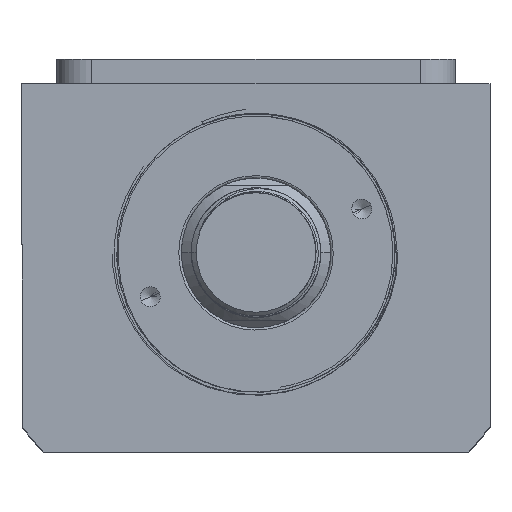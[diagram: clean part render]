
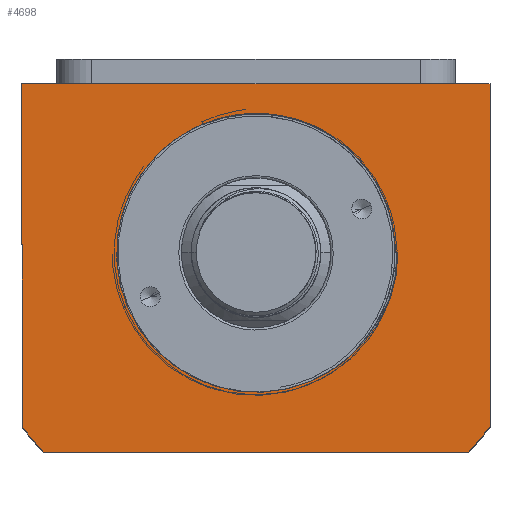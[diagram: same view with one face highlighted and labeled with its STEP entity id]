
A CAD part, top view. The second image highlights one B-rep face of the part: STEP entity #4698.
In plain terms, the highlighted planar face has unit normal (0, 0, 1).
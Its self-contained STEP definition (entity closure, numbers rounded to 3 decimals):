
#69 = CARTESIAN_POINT ( 'NONE',  ( 10.89, -25.816, 52.5 ) ) ;
#324 = CARTESIAN_POINT ( 'NONE',  ( 27.555, -6.99, 52.5 ) ) ;
#429 = FACE_OUTER_BOUND ( 'NONE', #1045, .T. ) ;
#486 = ORIENTED_EDGE ( 'NONE', *, *, #14202, .F. ) ;
#519 = EDGE_CURVE ( 'NONE', #7049, #18448, #19385, .T. ) ;
#596 = CARTESIAN_POINT ( 'NONE',  ( 0., 0., 52.5 ) ) ;
#609 = VERTEX_POINT ( 'NONE', #15562 ) ;
#827 = VECTOR ( 'NONE', #5496, 1000. ) ;
#1045 = EDGE_LOOP ( 'NONE', ( #19054, #5654, #10615, #5291, #7535, #15246 ) ) ;
#1714 = CARTESIAN_POINT ( 'NONE',  ( 20.224, -19.631, 52.5 ) ) ;
#1778 = CARTESIAN_POINT ( 'NONE',  ( 24.898, -13.504, 52.5 ) ) ;
#1793 = ORIENTED_EDGE ( 'NONE', *, *, #11417, .T. ) ;
#1842 = CARTESIAN_POINT ( 'NONE',  ( 22.571, -17.007, 52.5 ) ) ;
#2073 = VERTEX_POINT ( 'NONE', #8135 ) ;
#3306 = CARTESIAN_POINT ( 'NONE',  ( 0., 0., 52.5 ) ) ;
#3344 = CARTESIAN_POINT ( 'NONE',  ( 27.887, -5.628, 52.5 ) ) ;
#3583 = LINE ( 'NONE', #17323, #6401 ) ;
#3900 = CIRCLE ( 'NONE', #14886, 28. ) ;
#4044 = CARTESIAN_POINT ( 'NONE',  ( 42.688, -40., 52.5 ) ) ;
#4205 = CARTESIAN_POINT ( 'NONE',  ( 0., 0., 52.5 ) ) ;
#4561 = CARTESIAN_POINT ( 'NONE',  ( 21.684, -18.094, 52.5 ) ) ;
#4631 = CARTESIAN_POINT ( 'NONE',  ( 10.232, -26.064, 52.5 ) ) ;
#4687 = VERTEX_POINT ( 'NONE', #14757 ) ;
#4698 = ADVANCED_FACE ( 'NONE', ( #10103, #429 ), #13060, .T. ) ;
#4757 = CARTESIAN_POINT ( 'NONE',  ( 28.323, -2.832, 52.5 ) ) ;
#4865 = LINE ( 'NONE', #18099, #18716 ) ;
#5291 = ORIENTED_EDGE ( 'NONE', *, *, #11247, .T. ) ;
#5326 = LINE ( 'NONE', #14454, #827 ) ;
#5490 = DIRECTION ( 'NONE',  ( -1., 0., 0. ) ) ;
#5496 = DIRECTION ( 'NONE',  ( 0., 1., 0. ) ) ;
#5529 = VERTEX_POINT ( 'NONE', #17113 ) ;
#5654 = ORIENTED_EDGE ( 'NONE', *, *, #18003, .T. ) ;
#5767 = VERTEX_POINT ( 'NONE', #14837 ) ;
#5859 = AXIS2_PLACEMENT_3D ( 'NONE', #3306, #15583, #9588 ) ;
#6072 = CARTESIAN_POINT ( 'NONE',  ( 13.459, -24.624, 52.5 ) ) ;
#6198 = CARTESIAN_POINT ( 'NONE',  ( 11.542, -25.544, 52.5 ) ) ;
#6263 = CARTESIAN_POINT ( 'NONE',  ( 15.3, -23.593, 52.5 ) ) ;
#6325 = CARTESIAN_POINT ( 'NONE',  ( 28.449, -1.419, 52.5 ) ) ;
#6401 = VECTOR ( 'NONE', #13031, 1000. ) ;
#6941 = EDGE_LOOP ( 'NONE', ( #486, #1793, #7477 ) ) ;
#7049 = VERTEX_POINT ( 'NONE', #13448 ) ;
#7477 = ORIENTED_EDGE ( 'NONE', *, *, #9261, .T. ) ;
#7535 = ORIENTED_EDGE ( 'NONE', *, *, #9480, .T. ) ;
#7655 = CARTESIAN_POINT ( 'NONE',  ( 24.178, -14.712, 52.5 ) ) ;
#8135 = CARTESIAN_POINT ( 'NONE',  ( 47., 34., 52.5 ) ) ;
#8244 = DIRECTION ( 'NONE',  ( 1., 0., 0. ) ) ;
#8831 = VECTOR ( 'NONE', #13169, 1000. ) ;
#9165 = CARTESIAN_POINT ( 'NONE',  ( 19.714, -20.129, 52.5 ) ) ;
#9261 = EDGE_CURVE ( 'NONE', #15128, #5529, #3900, .T. ) ;
#9480 = EDGE_CURVE ( 'NONE', #609, #13634, #11919, .T. ) ;
#9588 = DIRECTION ( 'NONE',  ( 1., 0., 0. ) ) ;
#9776 = CARTESIAN_POINT ( 'NONE',  ( 10.232, -26.064, 52.5 ) ) ;
#10103 = FACE_BOUND ( 'NONE', #6941, .T. ) ;
#10135 = EDGE_CURVE ( 'NONE', #13634, #2073, #5326, .T. ) ;
#10526 = DIRECTION ( 'NONE',  ( 0., -1., 0. ) ) ;
#10615 = ORIENTED_EDGE ( 'NONE', *, *, #519, .T. ) ;
#10822 = CARTESIAN_POINT ( 'NONE',  ( 26.694, -9.657, 52.5 ) ) ;
#11075 = DIRECTION ( 'NONE',  ( 0., 0., 1. ) ) ;
#11247 = EDGE_CURVE ( 'NONE', #18448, #609, #13283, .T. ) ;
#11417 = EDGE_CURVE ( 'NONE', #5767, #15128, #18761, .T. ) ;
#11919 = CIRCLE ( 'NONE', #5859, 58.5 ) ;
#12309 = CARTESIAN_POINT ( 'NONE',  ( 18.667, -21.077, 52.5 ) ) ;
#12370 = CARTESIAN_POINT ( 'NONE',  ( 26.163, -10.961, 52.5 ) ) ;
#12454 = DIRECTION ( 'NONE',  ( 1., 0., 0. ) ) ;
#12929 = CARTESIAN_POINT ( 'NONE',  ( 47., -34.832, 52.5 ) ) ;
#13031 = DIRECTION ( 'NONE',  ( -1., 0., 0. ) ) ;
#13060 = PLANE ( 'NONE',  #19367 ) ;
#13169 = DIRECTION ( 'NONE',  ( 1., 0., 0. ) ) ;
#13283 = LINE ( 'NONE', #4044, #8831 ) ;
#13448 = CARTESIAN_POINT ( 'NONE',  ( -47., -34.832, 52.5 ) ) ;
#13634 = VERTEX_POINT ( 'NONE', #12929 ) ;
#13796 = CARTESIAN_POINT ( 'NONE',  ( 28.495, 0., 52.5 ) ) ;
#14202 = EDGE_CURVE ( 'NONE', #5767, #5529, #3583, .T. ) ;
#14454 = CARTESIAN_POINT ( 'NONE',  ( 47., 34., 52.5 ) ) ;
#14757 = CARTESIAN_POINT ( 'NONE',  ( -47., 34., 52.5 ) ) ;
#14837 = CARTESIAN_POINT ( 'NONE',  ( 28.495, 0., 52.5 ) ) ;
#14886 = AXIS2_PLACEMENT_3D ( 'NONE', #18324, #18730, #8244 ) ;
#15046 = CARTESIAN_POINT ( 'NONE',  ( 28.485, -0.71, 52.5 ) ) ;
#15128 = VERTEX_POINT ( 'NONE', #9776 ) ;
#15236 = CARTESIAN_POINT ( 'NONE',  ( 18.129, -21.529, 52.5 ) ) ;
#15246 = ORIENTED_EDGE ( 'NONE', *, *, #10135, .T. ) ;
#15562 = CARTESIAN_POINT ( 'NONE',  ( 42.688, -40., 52.5 ) ) ;
#15583 = DIRECTION ( 'NONE',  ( 0., 0., 1. ) ) ;
#16244 = DIRECTION ( 'NONE',  ( 0., 0., 1. ) ) ;
#16523 = CARTESIAN_POINT ( 'NONE',  ( 28.233, -3.538, 52.5 ) ) ;
#16626 = AXIS2_PLACEMENT_3D ( 'NONE', #596, #11075, #12454 ) ;
#16708 = CARTESIAN_POINT ( 'NONE',  ( 12.831, -24.945, 52.5 ) ) ;
#17113 = CARTESIAN_POINT ( 'NONE',  ( 28., 0., 52.5 ) ) ;
#17323 = CARTESIAN_POINT ( 'NONE',  ( 0., 0., 52.5 ) ) ;
#17499 = VECTOR ( 'NONE', #5490, 1000. ) ;
#17749 = DIRECTION ( 'NONE',  ( 1., 0., 0. ) ) ;
#18003 = EDGE_CURVE ( 'NONE', #4687, #7049, #4865, .T. ) ;
#18099 = CARTESIAN_POINT ( 'NONE',  ( -47., -34.832, 52.5 ) ) ;
#18120 = CARTESIAN_POINT ( 'NONE',  ( 16.467, -22.819, 52.5 ) ) ;
#18324 = CARTESIAN_POINT ( 'NONE',  ( 0., 0., 52.5 ) ) ;
#18448 = VERTEX_POINT ( 'NONE', #18924 ) ;
#18716 = VECTOR ( 'NONE', #10526, 1000. ) ;
#18717 = CARTESIAN_POINT ( 'NONE',  ( -47., 34., 52.5 ) ) ;
#18730 = DIRECTION ( 'NONE',  ( 0., 0., -1. ) ) ;
#18761 = B_SPLINE_CURVE_WITH_KNOTS ( 'NONE', 3,
 ( #13796, #15046, #6325, #4757, #16523, #3344, #324, #10822, #12370, #1778, #7655, #1842, #4561, #1714, #9165, #12309, #15236, #18120, #6263, #6072, #16708, #6198, #69, #4631 ),
 .UNSPECIFIED., .F., .F.,
 ( 4, 2, 2, 2, 2, 2, 2, 2, 2, 2, 2, 4 ),
 ( 0., 0.002, 0.004, 0.009, 0.013, 0.017, 0.021, 0.023, 0.026, 0.03, 0.032, 0.034 ),
 .UNSPECIFIED. ) ;
#18819 = EDGE_CURVE ( 'NONE', #2073, #4687, #19408, .T. ) ;
#18924 = CARTESIAN_POINT ( 'NONE',  ( -42.688, -40., 52.5 ) ) ;
#19054 = ORIENTED_EDGE ( 'NONE', *, *, #18819, .T. ) ;
#19367 = AXIS2_PLACEMENT_3D ( 'NONE', #4205, #16244, #17749 ) ;
#19385 = CIRCLE ( 'NONE', #16626, 58.5 ) ;
#19408 = LINE ( 'NONE', #18717, #17499 ) ;
